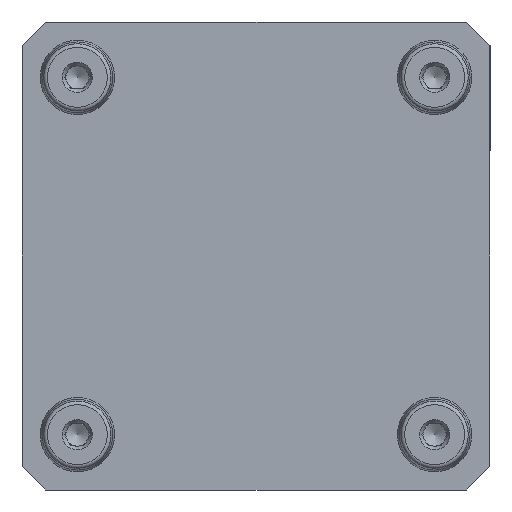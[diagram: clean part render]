
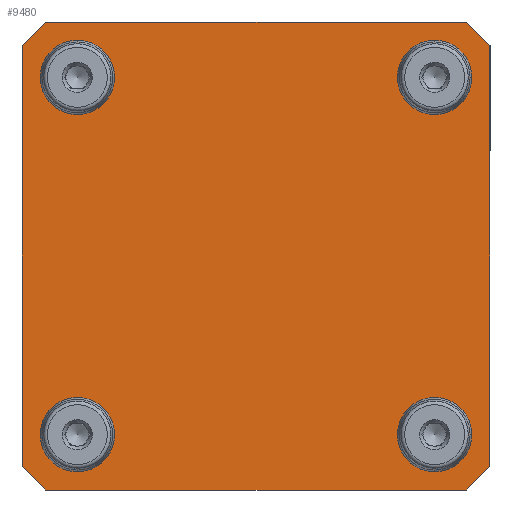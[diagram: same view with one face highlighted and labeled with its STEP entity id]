
A CAD part, front view. The second image highlights one B-rep face of the part: STEP entity #9480.
In plain terms, the highlighted planar face has unit normal (0, -1, 0).
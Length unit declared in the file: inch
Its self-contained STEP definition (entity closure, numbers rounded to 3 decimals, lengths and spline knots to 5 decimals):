
#8 = ORIENTED_EDGE ( 'NONE', *, *, #2090, .F. ) ;
#76 = EDGE_CURVE ( 'NONE', #5856, #4751, #9806, .T. ) ;
#191 = CIRCLE ( 'NONE', #9012, 0.31535 ) ;
#267 = CARTESIAN_POINT ( 'NONE',  ( -2.225, 0., 2.475 ) ) ;
#285 = LINE ( 'NONE', #4075, #5457 ) ;
#345 = CARTESIAN_POINT ( 'NONE',  ( -2.225, 0., -2.475 ) ) ;
#371 = ORIENTED_EDGE ( 'NONE', *, *, #3495, .F. ) ;
#423 = CARTESIAN_POINT ( 'NONE',  ( -1.88976, 0., 1.88976 ) ) ;
#534 = ORIENTED_EDGE ( 'NONE', *, *, #5860, .F. ) ;
#581 = CARTESIAN_POINT ( 'NONE',  ( 2.475, 0., 2.225 ) ) ;
#675 = DIRECTION ( 'NONE',  ( 0., 0., 1. ) ) ;
#718 = EDGE_CURVE ( 'NONE', #4907, #3109, #1034, .T. ) ;
#790 = CARTESIAN_POINT ( 'NONE',  ( -2.475, 0., -2.225 ) ) ;
#1034 = LINE ( 'NONE', #267, #1798 ) ;
#1218 = EDGE_LOOP ( 'NONE', ( #8 ) ) ;
#1318 = ORIENTED_EDGE ( 'NONE', *, *, #76, .T. ) ;
#1358 = DIRECTION ( 'NONE',  ( 0., -1., 0. ) ) ;
#1361 = EDGE_LOOP ( 'NONE', ( #8811 ) ) ;
#1409 = CARTESIAN_POINT ( 'NONE',  ( 1.88976, 0., 1.88976 ) ) ;
#1519 = AXIS2_PLACEMENT_3D ( 'NONE', #7675, #3785, #675 ) ;
#1629 = PLANE ( 'NONE',  #1519 ) ;
#1779 = EDGE_CURVE ( 'NONE', #5856, #4420, #8286, .T. ) ;
#1787 = DIRECTION ( 'NONE',  ( 0.707, 0., -0.707 ) ) ;
#1798 = VECTOR ( 'NONE', #5012, 39.37008 ) ;
#1800 = CARTESIAN_POINT ( 'NONE',  ( 2.225, 0., 2.475 ) ) ;
#1850 = EDGE_CURVE ( 'NONE', #7774, #4724, #2311, .T. ) ;
#1877 = ORIENTED_EDGE ( 'NONE', *, *, #1850, .T. ) ;
#1897 = CARTESIAN_POINT ( 'NONE',  ( 2.225, 0., -2.475 ) ) ;
#2083 = EDGE_CURVE ( 'NONE', #2346, #2346, #6944, .T. ) ;
#2090 = EDGE_CURVE ( 'NONE', #9325, #9325, #9741, .T. ) ;
#2100 = EDGE_LOOP ( 'NONE', ( #371 ) ) ;
#2311 = LINE ( 'NONE', #581, #2356 ) ;
#2346 = VERTEX_POINT ( 'NONE', #7560 ) ;
#2356 = VECTOR ( 'NONE', #3797, 39.37008 ) ;
#2412 = FACE_BOUND ( 'NONE', #5536, .T. ) ;
#2765 = DIRECTION ( 'NONE',  ( 0., 0., 1. ) ) ;
#2938 = CIRCLE ( 'NONE', #9789, 0.31535 ) ;
#3096 = ORIENTED_EDGE ( 'NONE', *, *, #7770, .F. ) ;
#3109 = VERTEX_POINT ( 'NONE', #5445 ) ;
#3185 = FACE_BOUND ( 'NONE', #2100, .T. ) ;
#3298 = CARTESIAN_POINT ( 'NONE',  ( 2.475, 0., -2.225 ) ) ;
#3304 = EDGE_LOOP ( 'NONE', ( #3096, #4959, #5718, #1318, #5256, #1877, #534, #8393 ) ) ;
#3424 = DIRECTION ( 'NONE',  ( 0., 0., 1. ) ) ;
#3443 = LINE ( 'NONE', #6524, #4475 ) ;
#3495 = EDGE_CURVE ( 'NONE', #7072, #7072, #2938, .T. ) ;
#3785 = DIRECTION ( 'NONE',  ( 0., 1., 0. ) ) ;
#3797 = DIRECTION ( 'NONE',  ( -0.707, 0., 0.707 ) ) ;
#3886 = FACE_BOUND ( 'NONE', #1218, .T. ) ;
#4075 = CARTESIAN_POINT ( 'NONE',  ( -2.475, 0., -2.475 ) ) ;
#4420 = VERTEX_POINT ( 'NONE', #345 ) ;
#4475 = VECTOR ( 'NONE', #1787, 39.37008 ) ;
#4586 = VERTEX_POINT ( 'NONE', #790 ) ;
#4683 = DIRECTION ( 'NONE',  ( 1., 0., 0. ) ) ;
#4724 = VERTEX_POINT ( 'NONE', #1800 ) ;
#4751 = VERTEX_POINT ( 'NONE', #3298 ) ;
#4907 = VERTEX_POINT ( 'NONE', #6682 ) ;
#4959 = ORIENTED_EDGE ( 'NONE', *, *, #9636, .T. ) ;
#5008 = DIRECTION ( 'NONE',  ( 0., 0., -1. ) ) ;
#5012 = DIRECTION ( 'NONE',  ( -0.707, 0., -0.707 ) ) ;
#5062 = VERTEX_POINT ( 'NONE', #6669 ) ;
#5076 = CARTESIAN_POINT ( 'NONE',  ( -2.475, 0., -2.475 ) ) ;
#5173 = AXIS2_PLACEMENT_3D ( 'NONE', #423, #5831, #7334 ) ;
#5244 = DIRECTION ( 'NONE',  ( 0., 0., -1. ) ) ;
#5256 = ORIENTED_EDGE ( 'NONE', *, *, #9219, .F. ) ;
#5428 = VECTOR ( 'NONE', #4683, 39.37008 ) ;
#5445 = CARTESIAN_POINT ( 'NONE',  ( -2.475, 0., 2.225 ) ) ;
#5455 = VECTOR ( 'NONE', #5244, 39.37008 ) ;
#5457 = VECTOR ( 'NONE', #3424, 39.37008 ) ;
#5524 = FACE_OUTER_BOUND ( 'NONE', #3304, .T. ) ;
#5536 = EDGE_LOOP ( 'NONE', ( #7493 ) ) ;
#5718 = ORIENTED_EDGE ( 'NONE', *, *, #1779, .F. ) ;
#5831 = DIRECTION ( 'NONE',  ( 0., -1., 0. ) ) ;
#5856 = VERTEX_POINT ( 'NONE', #7844 ) ;
#5860 = EDGE_CURVE ( 'NONE', #4907, #4724, #6101, .T. ) ;
#5986 = DIRECTION ( 'NONE',  ( 0.707, 0., 0.707 ) ) ;
#6055 = LINE ( 'NONE', #8516, #5455 ) ;
#6101 = LINE ( 'NONE', #8507, #5428 ) ;
#6175 = DIRECTION ( 'NONE',  ( 0., 0., 1. ) ) ;
#6285 = FACE_BOUND ( 'NONE', #1361, .T. ) ;
#6476 = CARTESIAN_POINT ( 'NONE',  ( 1.88976, 0., 2.20511 ) ) ;
#6524 = CARTESIAN_POINT ( 'NONE',  ( -2.475, 0., -2.225 ) ) ;
#6621 = AXIS2_PLACEMENT_3D ( 'NONE', #6627, #9763, #2765 ) ;
#6627 = CARTESIAN_POINT ( 'NONE',  ( -1.88976, 0., -1.88976 ) ) ;
#6669 = CARTESIAN_POINT ( 'NONE',  ( 1.88976, 0., -2.20511 ) ) ;
#6682 = CARTESIAN_POINT ( 'NONE',  ( -2.225, 0., 2.475 ) ) ;
#6944 = CIRCLE ( 'NONE', #5173, 0.31535 ) ;
#7061 = VECTOR ( 'NONE', #9813, 39.37008 ) ;
#7072 = VERTEX_POINT ( 'NONE', #6476 ) ;
#7334 = DIRECTION ( 'NONE',  ( 0., 0., -1. ) ) ;
#7364 = EDGE_CURVE ( 'NONE', #5062, #5062, #191, .T. ) ;
#7493 = ORIENTED_EDGE ( 'NONE', *, *, #2083, .F. ) ;
#7560 = CARTESIAN_POINT ( 'NONE',  ( -1.88976, 0., 1.57441 ) ) ;
#7675 = CARTESIAN_POINT ( 'NONE',  ( 0., 0., 0. ) ) ;
#7770 = EDGE_CURVE ( 'NONE', #4586, #3109, #285, .T. ) ;
#7774 = VERTEX_POINT ( 'NONE', #8053 ) ;
#7844 = CARTESIAN_POINT ( 'NONE',  ( 2.225, 0., -2.475 ) ) ;
#7974 = DIRECTION ( 'NONE',  ( 0., -1., 0. ) ) ;
#8053 = CARTESIAN_POINT ( 'NONE',  ( 2.475, 0., 2.225 ) ) ;
#8286 = LINE ( 'NONE', #5076, #7061 ) ;
#8393 = ORIENTED_EDGE ( 'NONE', *, *, #718, .T. ) ;
#8472 = CARTESIAN_POINT ( 'NONE',  ( -1.88976, 0., -1.57441 ) ) ;
#8507 = CARTESIAN_POINT ( 'NONE',  ( -2.475, 0., 2.475 ) ) ;
#8516 = CARTESIAN_POINT ( 'NONE',  ( 2.475, 0., -2.475 ) ) ;
#8811 = ORIENTED_EDGE ( 'NONE', *, *, #7364, .F. ) ;
#9012 = AXIS2_PLACEMENT_3D ( 'NONE', #10070, #7974, #5008 ) ;
#9219 = EDGE_CURVE ( 'NONE', #7774, #4751, #6055, .T. ) ;
#9325 = VERTEX_POINT ( 'NONE', #8472 ) ;
#9480 = ADVANCED_FACE ( 'NONE', ( #3185, #3886, #6285, #2412, #5524 ), #1629, .F. ) ;
#9594 = VECTOR ( 'NONE', #5986, 39.37008 ) ;
#9636 = EDGE_CURVE ( 'NONE', #4586, #4420, #3443, .T. ) ;
#9741 = CIRCLE ( 'NONE', #6621, 0.31535 ) ;
#9763 = DIRECTION ( 'NONE',  ( 0., -1., 0. ) ) ;
#9789 = AXIS2_PLACEMENT_3D ( 'NONE', #1409, #1358, #6175 ) ;
#9806 = LINE ( 'NONE', #1897, #9594 ) ;
#9813 = DIRECTION ( 'NONE',  ( -1., 0., 0. ) ) ;
#10070 = CARTESIAN_POINT ( 'NONE',  ( 1.88976, 0., -1.88976 ) ) ;
